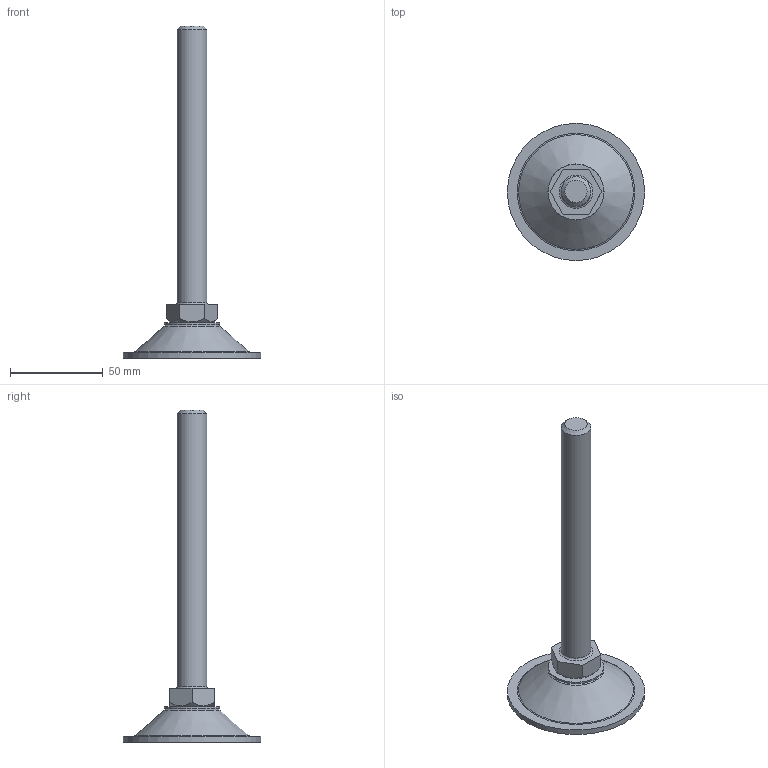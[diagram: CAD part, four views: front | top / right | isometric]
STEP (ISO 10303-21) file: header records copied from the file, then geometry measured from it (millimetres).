
FILE_DESCRIPTION(/* description */ (''),/* implementation_level */ '2;1');
FILE_NAME(/* name */ 'D:\조절자\PF\PF-M16-150L.stp',/* time_stamp */ '2016-03-14T14:55:43+09:00',/* author */ ('GS-DT-1-001'),/* organization */ (''),/* preprocessor_version */ 'ST-DEVELOPER v15.6',/* originating_system */ 'Autodesk Inventor LT ',/* authorisation */ '');
FILE_SCHEMA (('AUTOMOTIVE_DESIGN { 1 0 10303 214 3 1 1 }'));
Length unit declared in the file: millimetre
Products named in the file (1): PF-M16-150L
Bounding box: 74 x 74 x 179 mm (x, y, z)
Volume: 51617.1 mm3; surface area: 22508.4 mm2
Topology: 4 solids, 4 shells, 37 faces, 70 edges, 45 vertices
Faces by surface type: plane 18, cylinder 8, cone 6, torus 5
Full cylindrical faces by diameter (mm): 6.912 x1, 8 x1, 8.2 x1, 8.3 x1, 16 x2, 30 x1, 74 x1
Entity records: 815 total; most frequent: DIRECTION 144, CARTESIAN_POINT 136, ORIENTED_EDGE 92, AXIS2_PLACEMENT_3D 66, EDGE_LOOP 64, EDGE_CURVE 46, VERTEX_POINT 40, FACE_OUTER_BOUND 37
